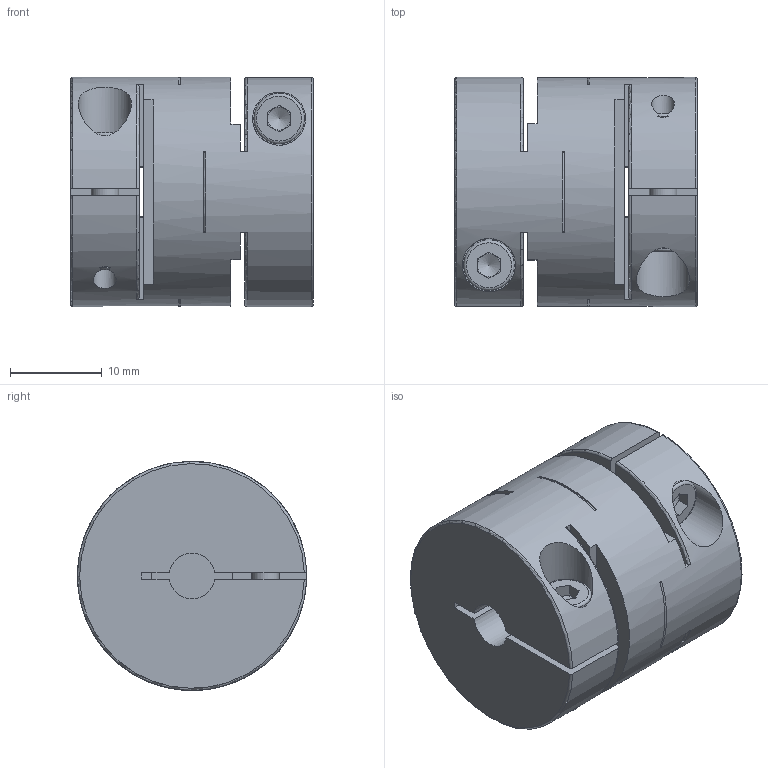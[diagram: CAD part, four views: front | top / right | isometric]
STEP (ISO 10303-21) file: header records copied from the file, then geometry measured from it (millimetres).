
FILE_DESCRIPTION( ( 'Unknown' ), '1' );
FILE_NAME( 'F:/JAKOB-STEP+IGES-Dateien/STEP-Dateien/MOH-C/MOH-C 25.stp', 'Unknown', ( 'Unknown' ), ( 'Unknown' ), 'PSStep 10.1', 'Unknown', ' ' );
FILE_SCHEMA( ( 'AUTOMOTIVE_DESIGN { 1 0 10303 214 1 1 1 1 }' ) );
Length unit declared in the file: millimetre
Products named in the file (1): kt101217
Bounding box: 26.5 x 25 x 24.99 mm (x, y, z)
Volume: 11123.2 mm3; surface area: 5692.1 mm2
Topology: 1 solids, 1 shells, 139 faces, 379 edges, 231 vertices
Faces by surface type: plane 72, cylinder 37, torus 18, bspline 8, cone 4
Full cylindrical faces by diameter (mm): 3 x2, 3.5 x2, 5.5 x2, 5.8 x2, 25 x1
Entity records: 5994 total; most frequent: CARTESIAN_POINT 1550, ORIENTED_EDGE 688, DIRECTION 668, EDGE_CURVE 344, AXIS2_PLACEMENT_3D 242, VERTEX_POINT 220, LINE 184, VECTOR 184
